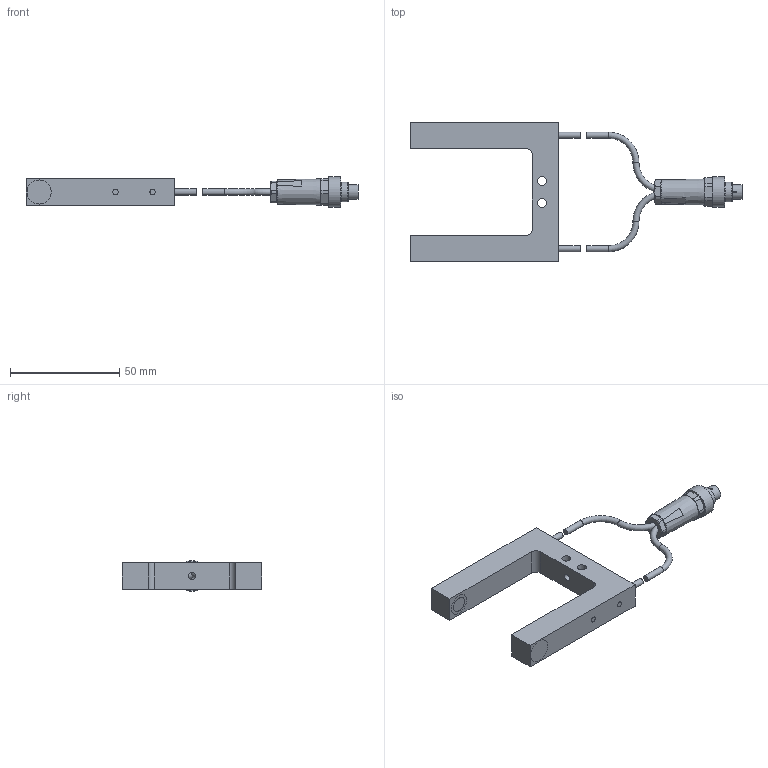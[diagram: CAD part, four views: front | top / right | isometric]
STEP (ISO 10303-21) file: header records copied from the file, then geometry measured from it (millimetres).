
FILE_DESCRIPTION(/* description */ (''),/* implementation_level */ '2;1');
FILE_NAME(/* name */ 'H:\ZVW\Inventor\E-Mail-Zeichnungen\STEP\HOMEPAGE\A-LAS-F12-...-40_50-C_0720_00.stp',/* time_stamp */ '2014-08-18T16:31:31+02:00',/* author */ ('TK-01'),/* organization */ (''),/* preprocessor_version */ 'ST-DEVELOPER v15.2',/* originating_system */ 'Autodesk Inventor 2014',/* authorisation */ '');
FILE_SCHEMA (('AUTOMOTIVE_DESIGN { 1 0 10303 214 3 1 1 }'));
Length unit declared in the file: millimetre
Products named in the file (1): Bauteil15
Bounding box: 152.1 x 64 x 14 mm (x, y, z)
Volume: 104256.6 mm3; surface area: 40162.5 mm2
Topology: 8 solids, 12 shells, 160 faces, 352 edges, 232 vertices
Faces by surface type: plane 72, cylinder 60, cone 11, sphere 9, torus 6, bspline 2
Full cylindrical faces by diameter (mm): 0.5 x7, 2.5 x8, 2.8 x4, 2.9 x2, 3.2 x1, 4.1 x2, 5.5 x1, 6 x1, 6.8 x1, 7.1 x1, 7.15 x2, 7.5 x1, 8 x1, 9 x2, 10 x2, 14 x1
Entity records: 4357 total; most frequent: CARTESIAN_POINT 927, DIRECTION 708, ORIENTED_EDGE 544, AXIS2_PLACEMENT_3D 310, EDGE_CURVE 268, EDGE_LOOP 250, VERTEX_POINT 204, ADVANCED_FACE 160
